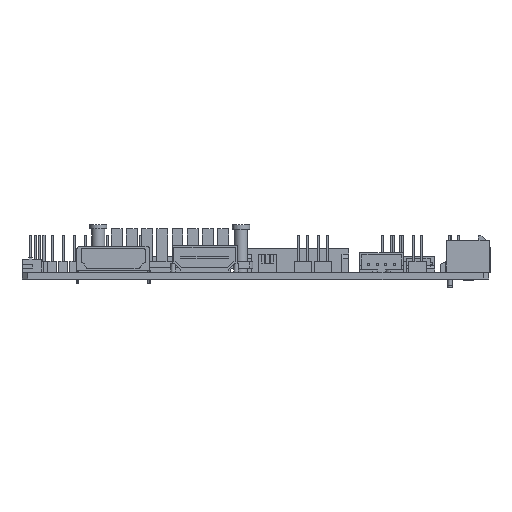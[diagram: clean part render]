
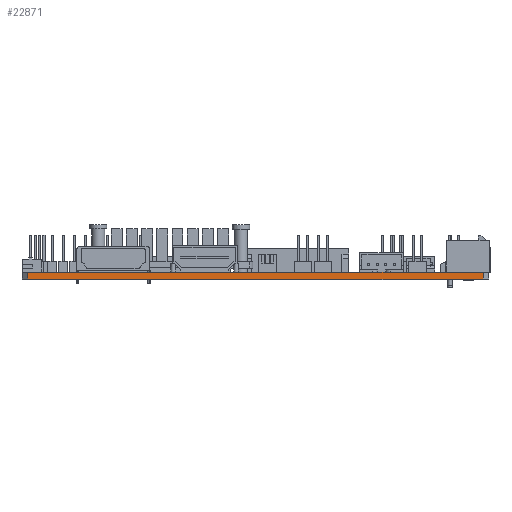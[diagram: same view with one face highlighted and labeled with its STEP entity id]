
A CAD part, top view. The second image highlights one B-rep face of the part: STEP entity #22871.
In plain terms, the highlighted planar face has unit normal (0, 0, 1).
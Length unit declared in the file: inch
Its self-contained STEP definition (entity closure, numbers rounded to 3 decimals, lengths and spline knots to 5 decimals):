
#176 = PLANE ( 'NONE',  #57453 ) ;
#4192 = DIRECTION ( 'NONE',  ( 0., -1., 0. ) ) ;
#4415 = LINE ( 'NONE', #18037, #22282 ) ;
#5583 = EDGE_CURVE ( 'NONE', #57875, #47323, #27314, .T. ) ;
#7105 = DIRECTION ( 'NONE',  ( 0., 0., -1. ) ) ;
#7579 = ORIENTED_EDGE ( 'NONE', *, *, #5583, .T. ) ;
#8128 = CARTESIAN_POINT ( 'NONE',  ( -2.115, 0.0625, 1.8 ) ) ;
#9877 = VERTEX_POINT ( 'NONE', #42396 ) ;
#12510 = ORIENTED_EDGE ( 'NONE', *, *, #39762, .T. ) ;
#14901 = ORIENTED_EDGE ( 'NONE', *, *, #48791, .F. ) ;
#15665 = VECTOR ( 'NONE', #56578, 39.37008 ) ;
#16409 = DIRECTION ( 'NONE',  ( 0., 1., 0. ) ) ;
#18037 = CARTESIAN_POINT ( 'NONE',  ( -2.115, 0., 1.8 ) ) ;
#18263 = DIRECTION ( 'NONE',  ( -1., 0., 0. ) ) ;
#22282 = VECTOR ( 'NONE', #51573, 39.37008 ) ;
#22871 = ADVANCED_FACE ( 'NONE', ( #38861 ), #176, .F. ) ;
#24414 = EDGE_LOOP ( 'NONE', ( #41909, #12510, #14901, #7579 ) ) ;
#27314 = LINE ( 'NONE', #45424, #55530 ) ;
#28328 = VECTOR ( 'NONE', #16409, 39.37008 ) ;
#29181 = LINE ( 'NONE', #47307, #28328 ) ;
#31333 = CARTESIAN_POINT ( 'NONE',  ( -2.115, 0.0625, 1.8 ) ) ;
#36039 = CARTESIAN_POINT ( 'NONE',  ( -2.065, 0.0625, 1.8 ) ) ;
#38861 = FACE_OUTER_BOUND ( 'NONE', #24414, .T. ) ;
#39762 = EDGE_CURVE ( 'NONE', #52729, #9877, #29181, .T. ) ;
#41909 = ORIENTED_EDGE ( 'NONE', *, *, #46868, .T. ) ;
#42396 = CARTESIAN_POINT ( 'NONE',  ( 2.065, 0.0625, 1.8 ) ) ;
#45424 = CARTESIAN_POINT ( 'NONE',  ( -2.065, 0.0625, 1.8 ) ) ;
#46868 = EDGE_CURVE ( 'NONE', #47323, #52729, #4415, .T. ) ;
#47307 = CARTESIAN_POINT ( 'NONE',  ( 2.065, 0.0625, 1.8 ) ) ;
#47323 = VERTEX_POINT ( 'NONE', #55980 ) ;
#47928 = LINE ( 'NONE', #8128, #15665 ) ;
#48791 = EDGE_CURVE ( 'NONE', #57875, #9877, #47928, .T. ) ;
#51573 = DIRECTION ( 'NONE',  ( 1., 0., 0. ) ) ;
#52729 = VERTEX_POINT ( 'NONE', #55256 ) ;
#55256 = CARTESIAN_POINT ( 'NONE',  ( 2.065, 0., 1.8 ) ) ;
#55530 = VECTOR ( 'NONE', #4192, 39.37008 ) ;
#55980 = CARTESIAN_POINT ( 'NONE',  ( -2.065, 0., 1.8 ) ) ;
#56578 = DIRECTION ( 'NONE',  ( 1., 0., 0. ) ) ;
#57453 = AXIS2_PLACEMENT_3D ( 'NONE', #31333, #7105, #18263 ) ;
#57875 = VERTEX_POINT ( 'NONE', #36039 ) ;
